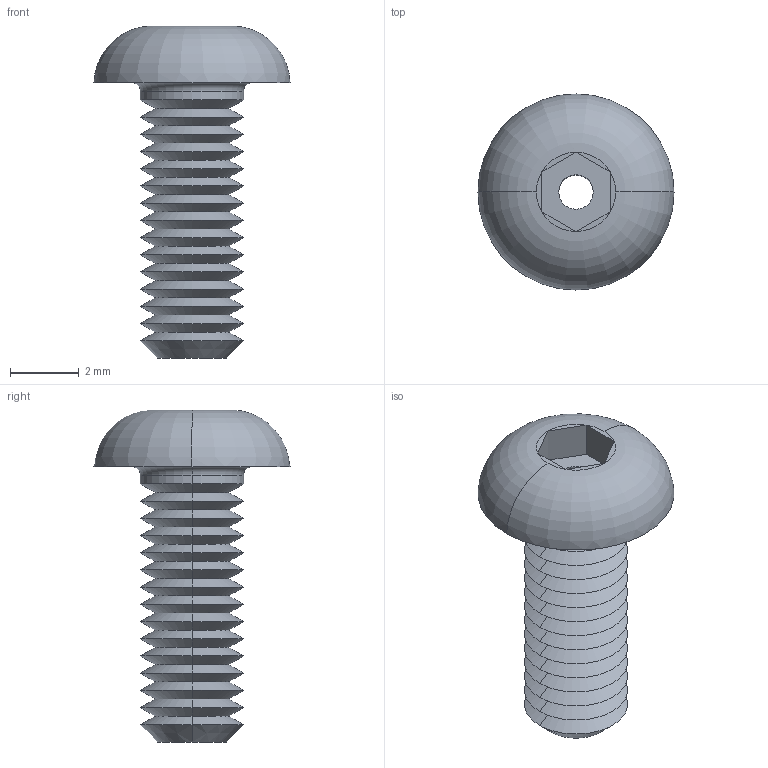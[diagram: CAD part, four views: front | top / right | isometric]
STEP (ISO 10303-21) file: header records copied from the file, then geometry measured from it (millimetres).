
FILE_DESCRIPTION (( 'STEP AP203' ), '1' );
FILE_NAME ('P0094.030-008-A2.step', '2019-07-12T16:51:17', ( '' ), ( '' ), 'SwSTEP 2.0', 'SolidWorks 2017', '' );
FILE_SCHEMA (( 'CONFIG_CONTROL_DESIGN' ));
Length unit declared in the file: millimetre
Products named in the file (1): P0094.030-008-A2
Bounding box: 5.7 x 5.7 x 9.65 mm (x, y, z)
Volume: 64.9 mm3; surface area: 217.2 mm2
Topology: 1 solids, 1 shells, 81 faces, 174 edges, 96 vertices
Faces by surface type: cone 58, plane 15, cylinder 4, torus 4
Entity records: 2239 total; most frequent: DIRECTION 414, CARTESIAN_POINT 372, ORIENTED_EDGE 348, EDGE_CURVE 174, AXIS2_PLACEMENT_3D 164, VERTEX_POINT 96, VECTOR 86, LINE 86
